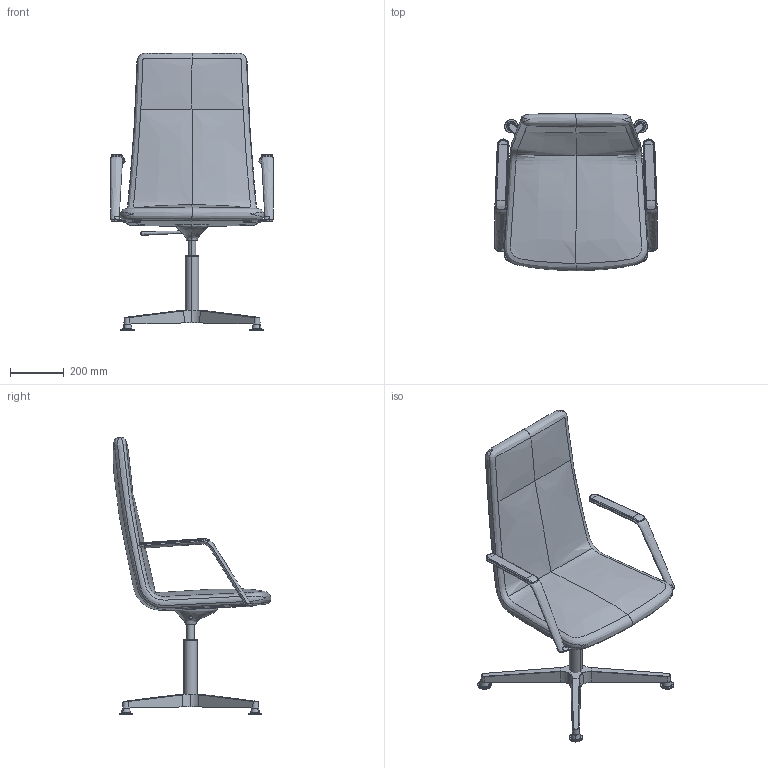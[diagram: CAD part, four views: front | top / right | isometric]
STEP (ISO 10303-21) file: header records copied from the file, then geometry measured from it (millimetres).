
FILE_DESCRIPTION(/* description */ (''),/* implementation_level */ '2;1');
FILE_NAME(/* name */ 'HA5AA6~1',/* time_stamp */ '2016-07-26T15:25:50+02:00',/* author */ (''),/* organization */ (''),/* preprocessor_version */ 'ST-DEVELOPER v15',/* originating_system */ '',/* authorisation */ '');
FILE_SCHEMA (('CONFIG_CONTROL_DESIGN'));
Length unit declared in the file: millimetre
Products named in the file (1): Document
Bounding box: 604.29 x 586.51 x 1032.35 mm (x, y, z)
Surface area: 1467104.5 mm2 (no closed solid volume)
Topology: 0 solids, 21 shells, 229 faces, 537 edges, 319 vertices
Faces by surface type: bspline 198, plane 31
Entity records: 17693 total; most frequent: CARTESIAN_POINT 14648, ORIENTED_EDGE 954, EDGE_CURVE 526, VERTEX_POINT 313, B_SPLINE_CURVE_WITH_KNOTS 280, EDGE_LOOP 231, ADVANCED_FACE 229, FACE_OUTER_BOUND 229
